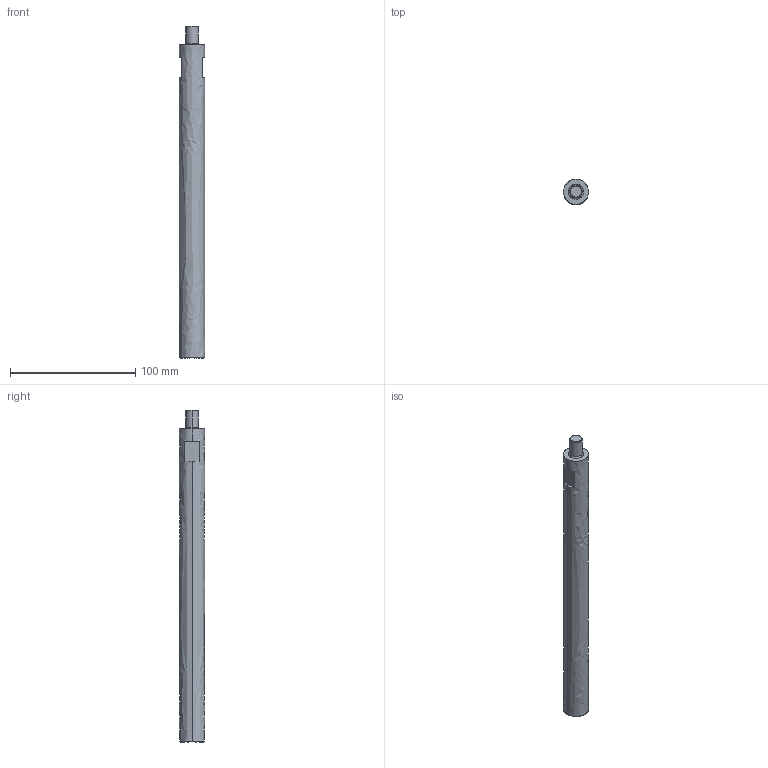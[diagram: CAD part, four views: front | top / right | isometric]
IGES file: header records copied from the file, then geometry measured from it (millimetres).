
Global section: file name: E:\UnigraphicsGraphicData\MISUMI_PRESS-PARTS\IGES\3d_mcup20-250_01359_r00.igs; native system: NX V5.0; preprocessor: UGS NX IGES V5.0; author: MISUMI; date: 20110105.161309; units: millimetre
Bounding box: 20 x 20 x 265 mm (x, y, z)
Surface area: 16806 mm2 (no closed solid volume)
Topology: 0 solids, 0 shells, 19 faces, 108 edges, 108 vertices
Faces by surface type: bspline 19
